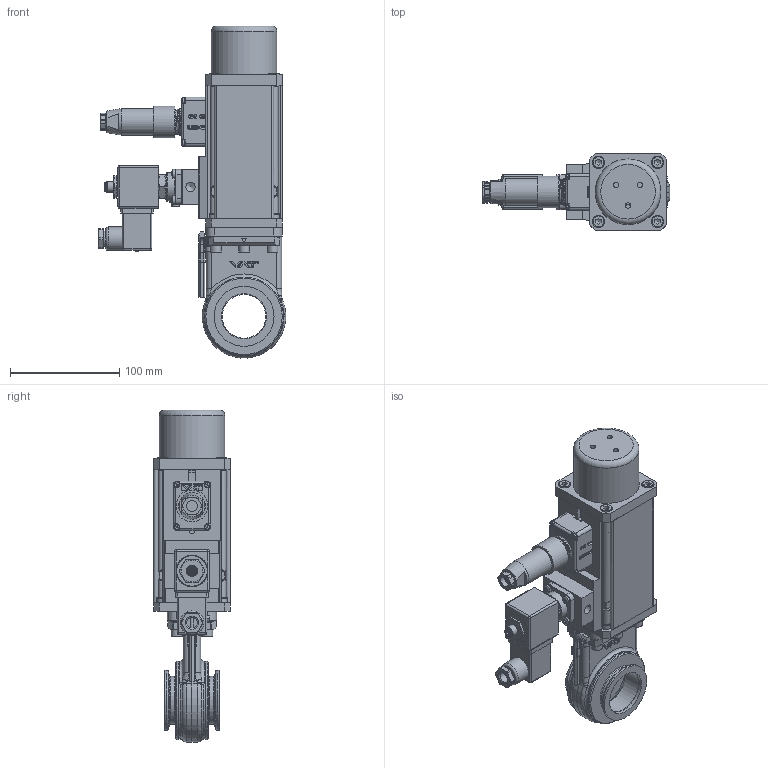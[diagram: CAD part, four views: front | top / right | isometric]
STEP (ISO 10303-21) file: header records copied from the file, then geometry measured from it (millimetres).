
FILE_DESCRIPTION(/* description */ (''),/* implementation_level */ '2;1');
FILE_NAME(/* name */ '1532627580_203.stp',/* time_stamp */ '2020-09-01T12:22:20+02:00',/* author */ (''),/* organization */ (''),/* preprocessor_version */ 'ST-DEVELOPER v16.7',/* originating_system */ 'SIEMENS PLM Software NX 1899',/* authorisation */ '');
FILE_SCHEMA (('AP203_CONFIGURATION_CONTROLLED_3D_DESIGN_OF_MECHANICAL_PARTS_AND_ASSEMBLIES_MIM_LF { 1 0 10303 403 2 1 2}'));
Products named in the file (51): 63150-01_33287ID; 63150-01_33292ID; N-7501-353_3.1; N-7501-353_1.1; N-7501-353_2.1; N-7501-353.1; N-7501-353_4.2; N-7510-101.1; 63152-01.4_33322ID; 1053594; 467914; 467814; 69672-01; 69252-01_33269ID; 69252-01_33257ID; 70687-01.2; 83434-01.1; 69852-01; 63172-01; 528417; n-6024-546.1; 73555-01.1; 69846-01; n-8504-002; 723790; n-6134-408; 70708-01.1; 70709-01.1; 70701-01.1; 72771-01.1; 224809.1; 68156-01.1; 69968-01.1; 73280-01_1.1; 228772.1; 318865; 63170-r1; 777710_NX-ARRAGMNTMassbild; 467915_NX-ARRAGMNT270° Uhrzeigersinn; N-7501-353_5.1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
Assembly tree (75 placements, depth 5):
  326771
    777660_NX-ARRAGMNTMassbild
      68156-01.1  x4
      224809.1  x4
      72771-01.1  x4
      70701-01.1
      70709-01.1
      70708-01.1
      n-6134-408  x4
      777439_NX-ARRAGMNTMassbild
        777465_NX-ARRAGMNTMassbild
          63152-01.4_33322ID
      777663_NX-ARRAGMNTArrangement 1
        70687-01.2
    228772.1  x6
    73280-01_1.1
    69968-01.1
    777481_NX-ARRAGMNTMassbild
      723790  x4
      777482_NX-ARRAGMNTMassbild
        69252-01_33257ID
        69252-01_33269ID
      n-8504-002
      777483_NX-ARRAGMNTMassbild
        69672-01
      69846-01
    528403_NX-ARRAGMNTArrangement 1
      73555-01.1
      n-6024-546.1  x4
      528417
      528401_NX-ARRAGMNTArrangement 1
        N-7510-101_2.1_NX-ARRAGMNTohne_Kappe
          N-7510-101.1
        N-7501-353_5.1
          N-7501-353_4.2
          N-7501-353.1
          N-7501-353_2.1
          N-7501-353_1.1
          N-7501-353_3.1  x2
      467915_NX-ARRAGMNT270° Uhrzeigersinn
        467814
        467914
        1053594
    777710_NX-ARRAGMNTMassbild
      63172-01
      63170-r1
        318865
          63150-01_33292ID
          63150-01_33287ID
      69852-01
      83434-01.1  x2
Bounding box: 171.52 x 70 x 303.61 mm (x, y, z)
Volume: 582578.5 mm3; surface area: 285032.6 mm2
Topology: 80 solids, 81 shells, 2144 faces, 5190 edges, 3374 vertices
Faces by surface type: plane 1248, cylinder 536, bspline 118, cone 82, extrusion 78, torus 69, sphere 13
Full cylindrical faces by diameter (mm): 1.5 x1, 1.66 x7, 1.95 x4, 2 x2, 2.25 x4, 2.5 x4, 2.6 x1, 2.693 x4, 3 x5, 3.2 x1, 3.25 x1, 3.3 x8, 3.4 x6, 4 x4, 4.3 x4, 4.375 x4, 4.4 x8, 4.96 x10, 5 x22, 5.3 x1, 6 x38, 6.2 x10, 6.4 x4, 6.475 x4, 6.7 x1, 7 x1, 7.2 x1, 7.982 x4, 8 x5, 8.2 x4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
Entity records: 67567 total; most frequent: CARTESIAN_POINT 19537, ORIENTED_EDGE 8024, DIRECTION 7561, EDGE_CURVE 4012, VERTEX_POINT 2784, AXIS2_PLACEMENT_3D 2667, EDGE_LOOP 2293, VECTOR 2227
